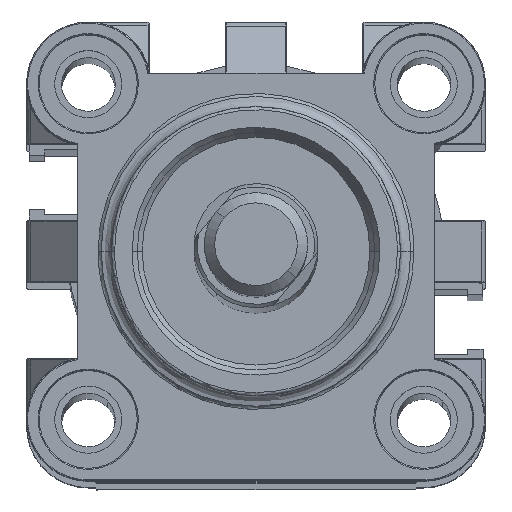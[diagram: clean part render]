
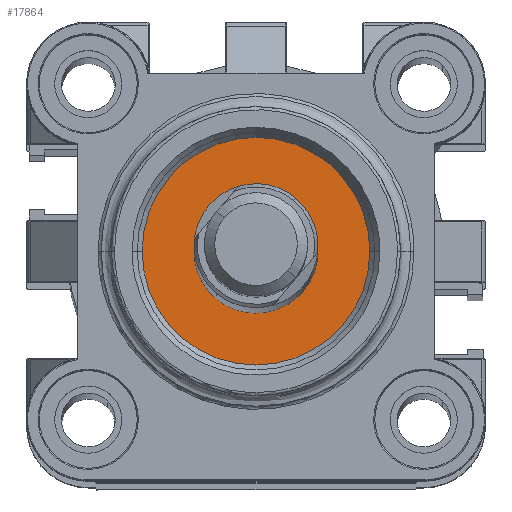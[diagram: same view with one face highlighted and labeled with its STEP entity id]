
A CAD part, top view. The second image highlights one B-rep face of the part: STEP entity #17864.
In plain terms, the highlighted planar face has unit normal (0, 0, 1).
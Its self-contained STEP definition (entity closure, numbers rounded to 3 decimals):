
#137 = VERTEX_POINT ( 'NONE', #11015 ) ;
#313 = CARTESIAN_POINT ( 'NONE',  ( 17.25, -17.25, 40.8 ) ) ;
#382 = DIRECTION ( 'NONE',  ( 0., 0., 1. ) ) ;
#537 = DIRECTION ( 'NONE',  ( 1., 0., 0. ) ) ;
#1298 = EDGE_LOOP ( 'NONE', ( #8453, #19981 ) ) ;
#1622 = DIRECTION ( 'NONE',  ( 0., 0., 1. ) ) ;
#1728 = CARTESIAN_POINT ( 'NONE',  ( 17.25, -17.25, 40.8 ) ) ;
#3363 = DIRECTION ( 'NONE',  ( 1., 0., 0. ) ) ;
#3569 = DIRECTION ( 'NONE',  ( 0., 0., 1. ) ) ;
#4184 = VERTEX_POINT ( 'NONE', #6691 ) ;
#4252 = VERTEX_POINT ( 'NONE', #7466 ) ;
#4976 = AXIS2_PLACEMENT_3D ( 'NONE', #18063, #3569, #14855 ) ;
#5853 = ORIENTED_EDGE ( 'NONE', *, *, #6040, .T. ) ;
#6040 = EDGE_CURVE ( 'NONE', #14679, #4184, #17063, .T. ) ;
#6691 = CARTESIAN_POINT ( 'NONE',  ( 28.278, -17.25, 40.8 ) ) ;
#6720 = AXIS2_PLACEMENT_3D ( 'NONE', #16239, #16379, #16418 ) ;
#7466 = CARTESIAN_POINT ( 'NONE',  ( 11.25, -17.25, 40.8 ) ) ;
#7603 = CARTESIAN_POINT ( 'NONE',  ( 6.222, -17.25, 40.8 ) ) ;
#8453 = ORIENTED_EDGE ( 'NONE', *, *, #14109, .F. ) ;
#8957 = EDGE_CURVE ( 'NONE', #4184, #14679, #20807, .T. ) ;
#9027 = FACE_BOUND ( 'NONE', #1298, .T. ) ;
#9791 = AXIS2_PLACEMENT_3D ( 'NONE', #1728, #13016, #3363 ) ;
#10495 = CIRCLE ( 'NONE', #9791, 6. ) ;
#11015 = CARTESIAN_POINT ( 'NONE',  ( 23.25, -17.25, 40.8 ) ) ;
#11271 = CARTESIAN_POINT ( 'NONE',  ( 17.25, -17.25, 40.8 ) ) ;
#11931 = EDGE_CURVE ( 'NONE', #4252, #137, #10495, .T. ) ;
#12333 = AXIS2_PLACEMENT_3D ( 'NONE', #11271, #1622, #12898 ) ;
#12521 = ORIENTED_EDGE ( 'NONE', *, *, #8957, .T. ) ;
#12898 = DIRECTION ( 'NONE',  ( 1., 0., 0. ) ) ;
#13016 = DIRECTION ( 'NONE',  ( 0., 0., 1. ) ) ;
#13224 = PLANE ( 'NONE',  #4976 ) ;
#14109 = EDGE_CURVE ( 'NONE', #137, #4252, #19094, .T. ) ;
#14679 = VERTEX_POINT ( 'NONE', #7603 ) ;
#14855 = DIRECTION ( 'NONE',  ( 1., 0., 0. ) ) ;
#15642 = EDGE_LOOP ( 'NONE', ( #12521, #5853 ) ) ;
#16239 = CARTESIAN_POINT ( 'NONE',  ( 17.25, -17.25, 40.8 ) ) ;
#16379 = DIRECTION ( 'NONE',  ( 0., 0., 1. ) ) ;
#16418 = DIRECTION ( 'NONE',  ( 1., 0., 0. ) ) ;
#17063 = CIRCLE ( 'NONE', #6720, 11.028 ) ;
#17657 = FACE_OUTER_BOUND ( 'NONE', #15642, .T. ) ;
#17864 = ADVANCED_FACE ( 'NONE', ( #17657, #9027 ), #13224, .T. ) ;
#18063 = CARTESIAN_POINT ( 'NONE',  ( 17.25, -17.25, 40.8 ) ) ;
#19094 = CIRCLE ( 'NONE', #12333, 6. ) ;
#19392 = AXIS2_PLACEMENT_3D ( 'NONE', #313, #382, #537 ) ;
#19981 = ORIENTED_EDGE ( 'NONE', *, *, #11931, .F. ) ;
#20807 = CIRCLE ( 'NONE', #19392, 11.028 ) ;
